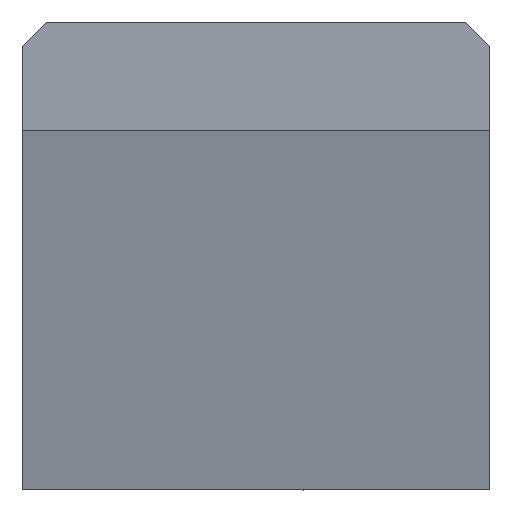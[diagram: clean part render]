
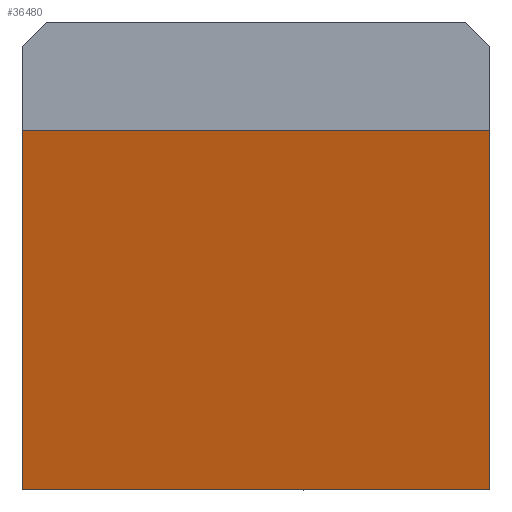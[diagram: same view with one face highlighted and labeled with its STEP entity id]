
A CAD part, left-side view. The second image highlights one B-rep face of the part: STEP entity #36480.
In plain terms, the highlighted planar face has unit normal (-0.943, 0.334, 0).
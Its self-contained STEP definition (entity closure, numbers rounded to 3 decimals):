
#4337 = EDGE_LOOP ( 'NONE', ( #59794, #59885, #59874, #59774 ) ) ;
#6185 = AXIS2_PLACEMENT_3D ( 'NONE', #55842, #55858, #55844 ) ;
#7743 = FACE_OUTER_BOUND ( 'NONE', #4337, .T. ) ;
#17886 = VERTEX_POINT ( 'NONE', #27497 ) ;
#18571 = VERTEX_POINT ( 'NONE', #28155 ) ;
#23099 = VERTEX_POINT ( 'NONE', #30689 ) ;
#23115 = VERTEX_POINT ( 'NONE', #30680 ) ;
#24129 = VECTOR ( 'NONE', #77987, 1000. ) ;
#24137 = LINE ( 'NONE', #77986, #24129 ) ;
#24464 = EDGE_CURVE ( 'NONE', #23115, #23099, #72847, .T. ) ;
#25723 = EDGE_CURVE ( 'NONE', #17886, #18571, #74098, .T. ) ;
#26856 = EDGE_CURVE ( 'NONE', #17886, #23115, #24137, .T. ) ;
#27497 = CARTESIAN_POINT ( 'NONE',  ( 10.269, 29., 13.25 ) ) ;
#28155 = CARTESIAN_POINT ( 'NONE',  ( 0., 0., 13.25 ) ) ;
#30680 = CARTESIAN_POINT ( 'NONE',  ( 10.269, 29., -9. ) ) ;
#30689 = CARTESIAN_POINT ( 'NONE',  ( 0., 0., -9. ) ) ;
#31873 = CARTESIAN_POINT ( 'NONE',  ( 0., 0., -9. ) ) ;
#31875 = DIRECTION ( 'NONE',  ( -0.334, -0.943, 0. ) ) ;
#36480 = ADVANCED_FACE ( 'NONE', ( #7743 ), #55822, .F. ) ;
#36857 = LINE ( 'NONE', #41533, #36911 ) ;
#36911 = VECTOR ( 'NONE', #41542, 1000. ) ;
#41533 = CARTESIAN_POINT ( 'NONE',  ( 0., 0., 20. ) ) ;
#41542 = DIRECTION ( 'NONE',  ( 0., 0., -1. ) ) ;
#55822 = PLANE ( 'NONE',  #6185 ) ;
#55842 = CARTESIAN_POINT ( 'NONE',  ( 0., 0., 20. ) ) ;
#55844 = DIRECTION ( 'NONE',  ( 0.334, 0.943, 0. ) ) ;
#55858 = DIRECTION ( 'NONE',  ( 0.943, -0.334, 0. ) ) ;
#59774 = ORIENTED_EDGE ( 'NONE', *, *, #24464, .T. ) ;
#59794 = ORIENTED_EDGE ( 'NONE', *, *, #67444, .F. ) ;
#59874 = ORIENTED_EDGE ( 'NONE', *, *, #26856, .T. ) ;
#59885 = ORIENTED_EDGE ( 'NONE', *, *, #25723, .F. ) ;
#67444 = EDGE_CURVE ( 'NONE', #18571, #23099, #36857, .T. ) ;
#72839 = VECTOR ( 'NONE', #31875, 1000. ) ;
#72847 = LINE ( 'NONE', #31873, #72839 ) ;
#74050 = VECTOR ( 'NONE', #75203, 1000. ) ;
#74098 = LINE ( 'NONE', #75215, #74050 ) ;
#75203 = DIRECTION ( 'NONE',  ( -0.334, -0.943, 0. ) ) ;
#75215 = CARTESIAN_POINT ( 'NONE',  ( 10.269, 29., 13.25 ) ) ;
#77986 = CARTESIAN_POINT ( 'NONE',  ( 10.269, 29., 20. ) ) ;
#77987 = DIRECTION ( 'NONE',  ( 0., 0., -1. ) ) ;
